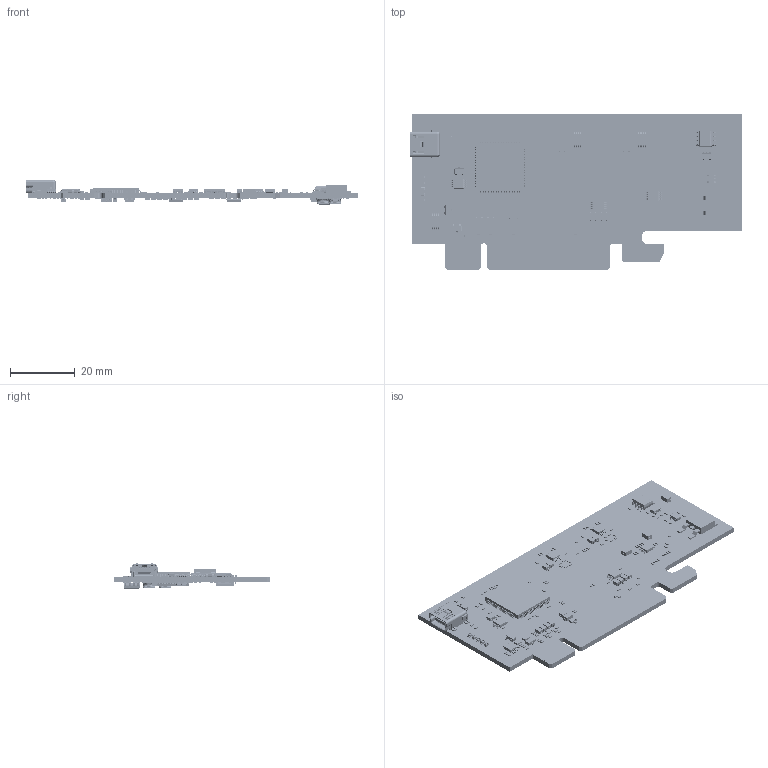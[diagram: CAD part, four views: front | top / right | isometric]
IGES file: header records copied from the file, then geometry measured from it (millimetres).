
Start section: SolidWorks IGES file using analytic representation for surfaces
Global section: file name: C:\Users\acroname\Desktop\S84-MTM-DAQ-1.IGS; native system: SolidWorks 2018; preprocessor: SolidWorks 2018; author: acroname; date: 180228.075649; units: millimetre
Bounding box: 102.69 x 48 x 7.73 mm (x, y, z)
Surface area: 12857.3 mm2 (no closed solid volume)
Topology: 0 solids, 0 shells, 11323 faces, 69286 edges, 68976 vertices
Faces by surface type: bspline 8013, revolution 3310
